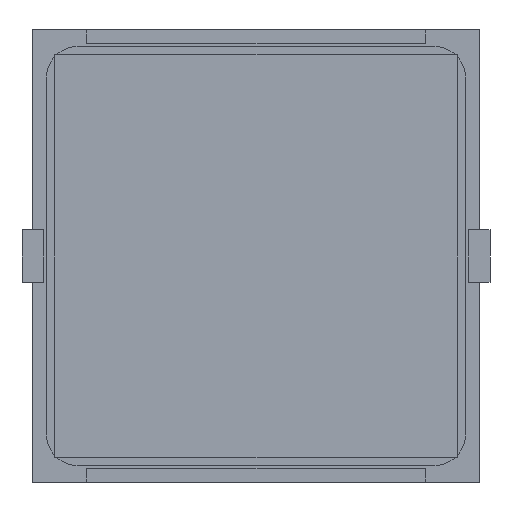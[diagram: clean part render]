
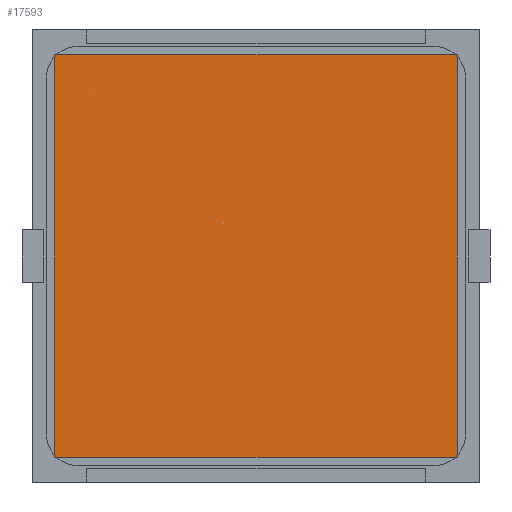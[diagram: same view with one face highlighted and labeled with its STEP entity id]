
A CAD part, front view. The second image highlights one B-rep face of the part: STEP entity #17593.
In plain terms, the highlighted planar face has unit normal (0, -1, 0).
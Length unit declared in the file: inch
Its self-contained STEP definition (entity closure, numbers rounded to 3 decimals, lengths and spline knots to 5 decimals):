
#903 = EDGE_LOOP ( 'NONE', ( #5093, #16045, #8526, #7827 ) ) ;
#1321 = CARTESIAN_POINT ( 'NONE',  ( 0.74803, -0.005, -0.74803 ) ) ;
#1807 = DIRECTION ( 'NONE',  ( 0., 0., 1. ) ) ;
#2001 = PLANE ( 'NONE',  #12531 ) ;
#2161 = DIRECTION ( 'NONE',  ( 1., 0., 0. ) ) ;
#3816 = EDGE_CURVE ( 'NONE', #18554, #8547, #14283, .T. ) ;
#4873 = VERTEX_POINT ( 'NONE', #8606 ) ;
#5093 = ORIENTED_EDGE ( 'NONE', *, *, #9097, .T. ) ;
#5240 = EDGE_CURVE ( 'NONE', #4873, #18554, #16275, .T. ) ;
#6257 = DIRECTION ( 'NONE',  ( -1., 0., 0. ) ) ;
#6796 = DIRECTION ( 'NONE',  ( 0., 0., -1. ) ) ;
#7266 = VECTOR ( 'NONE', #14503, 39.37008 ) ;
#7505 = CARTESIAN_POINT ( 'NONE',  ( 0.74803, -0.005, 0.74803 ) ) ;
#7827 = ORIENTED_EDGE ( 'NONE', *, *, #9883, .T. ) ;
#7835 = CARTESIAN_POINT ( 'NONE',  ( 0.74803, -0.005, 0.74803 ) ) ;
#8526 = ORIENTED_EDGE ( 'NONE', *, *, #3816, .T. ) ;
#8547 = VERTEX_POINT ( 'NONE', #10830 ) ;
#8606 = CARTESIAN_POINT ( 'NONE',  ( 0.74803, -0.005, 0.74803 ) ) ;
#8908 = CARTESIAN_POINT ( 'NONE',  ( 0.74803, -0.005, -0.74803 ) ) ;
#9097 = EDGE_CURVE ( 'NONE', #17342, #4873, #13146, .T. ) ;
#9756 = CARTESIAN_POINT ( 'NONE',  ( -0.74803, -0.005, -0.74803 ) ) ;
#9883 = EDGE_CURVE ( 'NONE', #8547, #17342, #12236, .T. ) ;
#10830 = CARTESIAN_POINT ( 'NONE',  ( -0.74803, -0.005, -0.74803 ) ) ;
#12236 = LINE ( 'NONE', #17040, #13145 ) ;
#12531 = AXIS2_PLACEMENT_3D ( 'NONE', #7835, #14848, #1807 ) ;
#13145 = VECTOR ( 'NONE', #2161, 39.37008 ) ;
#13146 = LINE ( 'NONE', #8908, #7266 ) ;
#13316 = FACE_OUTER_BOUND ( 'NONE', #903, .T. ) ;
#14283 = LINE ( 'NONE', #9756, #14688 ) ;
#14503 = DIRECTION ( 'NONE',  ( 0., 0., 1. ) ) ;
#14688 = VECTOR ( 'NONE', #6796, 39.37008 ) ;
#14848 = DIRECTION ( 'NONE',  ( 0., -1., 0. ) ) ;
#16036 = CARTESIAN_POINT ( 'NONE',  ( -0.74803, -0.005, 0.74803 ) ) ;
#16045 = ORIENTED_EDGE ( 'NONE', *, *, #5240, .T. ) ;
#16275 = LINE ( 'NONE', #7505, #17209 ) ;
#17040 = CARTESIAN_POINT ( 'NONE',  ( 0.74803, -0.005, -0.74803 ) ) ;
#17209 = VECTOR ( 'NONE', #6257, 39.37008 ) ;
#17342 = VERTEX_POINT ( 'NONE', #1321 ) ;
#17593 = ADVANCED_FACE ( 'NONE', ( #13316 ), #2001, .T. ) ;
#18554 = VERTEX_POINT ( 'NONE', #16036 ) ;
